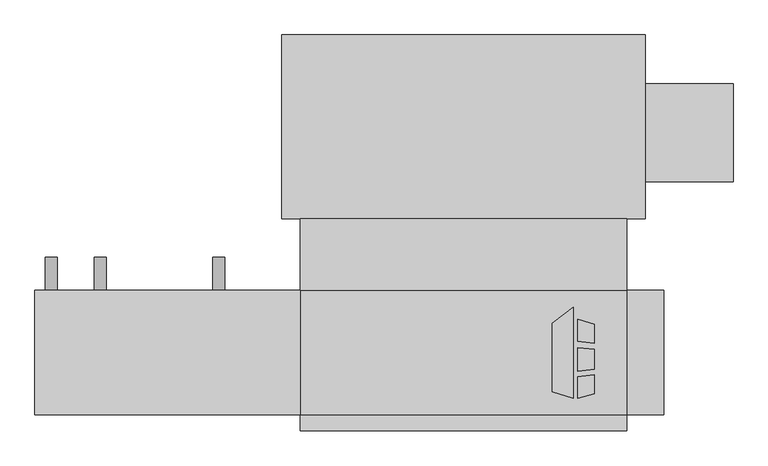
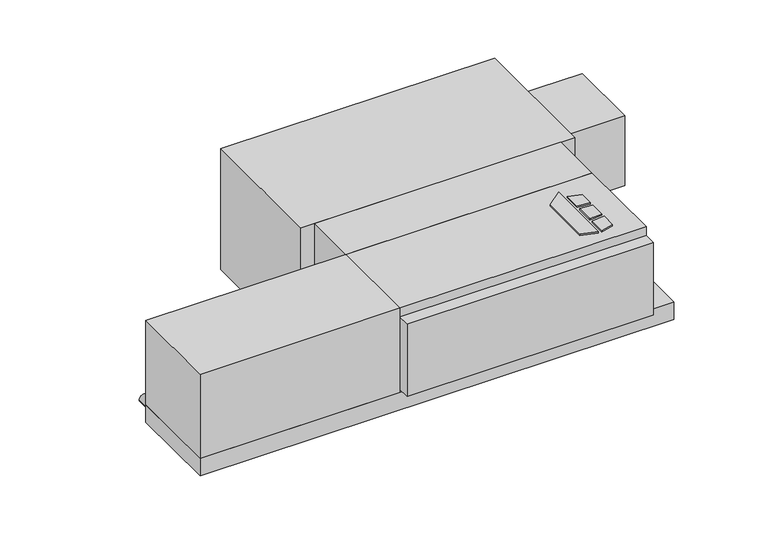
"""IFC4 building model written with IfcOpenShell, lengths in millimetres: proxy geometry, Concealed_Horizontal_Fan_Coil_Unit_With_Plenum_-_CPF_-_IEC_-_2-Pipe_LH : Size 03 - 115v/60Hz/1Ph - 4/1 Coil."""

import ifcopenshell
import ifcopenshell.guid

model = None  # the IFC model being written
_history = None  # IfcOwnerHistory: only IFC2X3 demands one
_inside = {}  # id of a spatial element -> (the spatial element, [elements in it])
_under = {}  # id of a project, library or spatial element -> (it, [spatial elements below it])
_declared = {}  # id of a project -> (the project, [libraries it declares])
_typed = {}  # id of a type object -> (the type object, [elements of that type])
_made_of = {}  # id of a material, layer set ... -> (it, [elements and type objects made of it])


def new_model(schema):
    """Start an empty IFC model of exactly this schema.

    Asked for "IFC4X3", IfcOpenShell would pick the latest addendum, in which some entities
    have other attributes; the version numbers below select the first issue.
    IFC2X3 requires an IfcOwnerHistory on every rooted entity: one is made here for all.
    """
    global model, _history
    if schema == "IFC4X3":
        model = ifcopenshell.file(schema_version=(4, 3, 0, 0))
    else:
        model = ifcopenshell.file(schema=schema)
    _inside.clear()
    _under.clear()
    _declared.clear()
    _typed.clear()
    _made_of.clear()
    _history = None
    if model.schema == "IFC2X3":
        org = make("IfcOrganization", Name="unknown")
        user = make(
            "IfcPersonAndOrganization",
            ThePerson=make("IfcPerson", FamilyName="unknown"),
            TheOrganization=org,
        )
        app = make(
            "IfcApplication",
            ApplicationDeveloper=org,
            Version="unknown",
            ApplicationFullName="unknown",
            ApplicationIdentifier="unknown",
        )
        _history = make(
            "IfcOwnerHistory",
            OwningUser=user,
            OwningApplication=app,
            ChangeAction="ADDED",
            CreationDate=0,
        )
    return model


def make(cls, **values):
    """One entity of the class cls with the attributes given. An attribute that is None is left unset."""
    return model.create_entity(
        cls, **{name: value for name, value in values.items() if value is not None}
    )


def rooted(cls, **values):
    """An entity with a GlobalId (a new one), such as an element, a storey or a relation."""
    return make(cls, GlobalId=ifcopenshell.guid.new(), OwnerHistory=_history, **values)


def si_unit(unit_type, name, prefix=None):
    """IfcSIUnit, for example si_unit("LENGTHUNIT", "METRE", prefix="MILLI")."""
    return make("IfcSIUnit", UnitType=unit_type, Prefix=prefix, Name=name)


def assignment(units):
    """IfcUnitAssignment: the units of a project."""
    return None if units is None else make("IfcUnitAssignment", Units=units)


def point(xyz):
    """IfcCartesianPoint."""
    return None if xyz is None else make("IfcCartesianPoint", Coordinates=xyz)


def direction(xyz):
    """IfcDirection."""
    return None if xyz is None else make("IfcDirection", DirectionRatios=xyz)


def frame(location, z_axis=None, x_axis=None):
    """IfcAxis2Placement3D, a coordinate frame: its origin and axes. An axis left out is left unset."""
    return make(
        "IfcAxis2Placement3D",
        Location=point(location),
        Axis=direction(z_axis),
        RefDirection=direction(x_axis),
    )


def frame_2d(location, x_axis=None):
    """IfcAxis2Placement2D, a coordinate frame in the plane: its origin and x axis."""
    return make(
        "IfcAxis2Placement2D", Location=point(location), RefDirection=direction(x_axis)
    )


def origin():
    """The frame at (0, 0, 0) with its axes left unset."""
    return frame((0.0, 0.0, 0.0))


def origin_with_axes():
    """The frame at (0, 0, 0) with the z axis (0, 0, 1) and the x axis (1, 0, 0) written out."""
    return frame((0.0, 0.0, 0.0), z_axis=(0.0, 0.0, 1.0), x_axis=(1.0, 0.0, 0.0))


def place(relative_to, where):
    """IfcLocalPlacement: puts the frame where relative to a parent placement (None: the world)."""
    return make(
        "IfcLocalPlacement", PlacementRelTo=relative_to, RelativePlacement=where
    )


def context(
    kind, dimensions, precision=None, world=None, true_north=None, identifier=None
):
    """IfcGeometricRepresentationContext, for example the 3D "Model" context."""
    return make(
        "IfcGeometricRepresentationContext",
        ContextIdentifier=identifier,
        ContextType=kind,
        CoordinateSpaceDimension=dimensions,
        Precision=precision,
        WorldCoordinateSystem=world,
        TrueNorth=true_north,
    )


def project(units=None, contexts=None):
    """IfcProject with its units and contexts."""
    return rooted(
        "IfcProject",
        Name="project",
        RepresentationContexts=contexts,
        UnitsInContext=assignment(units),
    )


def spatial(cls, under=None, at=None, **own):
    """A site, building, storey or space (cls), placed at a placement, below another one or the project."""
    s = rooted(cls, ObjectPlacement=at, **own)
    if under is not None:
        _under.setdefault(under.id(), (under, []))[1].append(s)
    return s


def polyline(points):
    """IfcPolyline through the points."""
    return make("IfcPolyline", Points=[point(p) for p in points])


def circle_curve(where, radius):
    """IfcCircle in the frame where."""
    return make("IfcCircle", Position=where, Radius=radius)


def trimmed(basis, trim1, trim2, sense, master):
    """IfcTrimmedCurve: the piece of a basis curve between two trims."""
    return make(
        "IfcTrimmedCurve",
        BasisCurve=basis,
        Trim1=trim1,
        Trim2=trim2,
        SenseAgreement=sense,
        MasterRepresentation=master,
    )


def segment(curve, same_sense, transition):
    """IfcCompositeCurveSegment."""
    return make(
        "IfcCompositeCurveSegment",
        Transition=transition,
        SameSense=same_sense,
        ParentCurve=curve,
    )


def composite_curve(segments, self_intersect=None):
    """IfcCompositeCurve: segments joined end to end."""
    return make("IfcCompositeCurve", Segments=segments, SelfIntersect=self_intersect)


def outline(outer, holes=None, kind="AREA"):
    """IfcArbitraryClosedProfileDef: a profile drawn as a closed curve; with holes, ...WithVoids."""
    if holes is None:
        return make("IfcArbitraryClosedProfileDef", ProfileType=kind, OuterCurve=outer)
    return make(
        "IfcArbitraryProfileDefWithVoids",
        ProfileType=kind,
        OuterCurve=outer,
        InnerCurves=holes,
    )


def extrude(swept, where, along, depth):
    """IfcExtrudedAreaSolid: the profile swept, set in the frame where, extruded along a direction by depth."""
    return make(
        "IfcExtrudedAreaSolid",
        SweptArea=swept,
        Position=where,
        ExtrudedDirection=direction(along),
        Depth=depth,
    )


def shape(context_of_items, identifier, shape_type, items):
    """IfcShapeRepresentation: the items that make up one representation, for example the "Body"."""
    return make(
        "IfcShapeRepresentation",
        ContextOfItems=context_of_items,
        RepresentationIdentifier=identifier,
        RepresentationType=shape_type,
        Items=items,
    )


def source(mapping_origin, context_of_items, identifier, shape_type, items):
    """IfcRepresentationMap: a shape defined once, which mapped items show again and again."""
    return make(
        "IfcRepresentationMap",
        MappingOrigin=mapping_origin,
        MappedRepresentation=shape(context_of_items, identifier, shape_type, items),
    )


def transform(
    local_origin,
    x_axis=None,
    y_axis=None,
    z_axis=None,
    scale=None,
    scale2=None,
    scale3=None,
    uniform=True,
):
    """IfcCartesianTransformationOperator3D, or its non-uniform kind. x_axis, y_axis, z_axis: its Axis1, 2, 3."""
    if uniform:
        return make(
            "IfcCartesianTransformationOperator3D",
            Axis1=direction(x_axis),
            Axis2=direction(y_axis),
            LocalOrigin=point(local_origin),
            Scale=scale,
            Axis3=direction(z_axis),
        )
    return make(
        "IfcCartesianTransformationOperator3DnonUniform",
        Axis1=direction(x_axis),
        Axis2=direction(y_axis),
        LocalOrigin=point(local_origin),
        Scale=scale,
        Axis3=direction(z_axis),
        Scale2=scale2,
        Scale3=scale3,
    )


def mapped(mapping_source, mapping_target):
    """IfcMappedItem: shows the shape of a source again, moved by a transform."""
    return make(
        "IfcMappedItem", MappingSource=mapping_source, MappingTarget=mapping_target
    )


def made_of(thing, what):
    """Note that an element or type object is made of a material, layer set ...; save() writes the relation."""
    if what is not None:
        _made_of.setdefault(what.id(), (what, []))[1].append(thing)
    return thing


def element(
    cls,
    number,
    at=None,
    inside=None,
    cuts=None,
    type_object=None,
    material=None,
    context=None,
    identifier="Body",
    shape_type=None,
    held_by="IfcProductDefinitionShape",
    body=None,
    shapes=None,
    **own,
):
    """One element of the class cls, such as IfcWall. Its Tag is "e" and its number.

    at: its placement. inside: the storey or other place that contains it. cuts: it is an
    opening in that element (IfcRelVoidsElement). A single representation is given by context,
    identifier, shape_type and body (its items); several are given by shapes. held_by: the class
    of the entity that holds the representations. save() writes the other relations.
    """
    e = rooted(cls, Tag="e%d" % number, ObjectPlacement=at, **own)
    if body is not None:
        shapes = [shape(context, identifier, shape_type, body)]
    if shapes is not None:
        e.Representation = make(held_by, Representations=shapes)
    if inside is not None:
        _inside.setdefault(inside.id(), (inside, []))[1].append(e)
    if cuts is not None:
        rooted(
            "IfcRelVoidsElement", RelatingBuildingElement=cuts, RelatedOpeningElement=e
        )
    if type_object is not None:
        _typed.setdefault(type_object.id(), (type_object, []))[1].append(e)
    return made_of(e, material)


def aggregate(whole, parts):
    """IfcRelAggregates: a whole, such as a stair, and the parts it consists of."""
    return rooted("IfcRelAggregates", RelatingObject=whole, RelatedObjects=parts)


def save(model, path):
    """Write the relations noted so far, then the file.

    IfcRelAggregates (storeys below a building ...), IfcRelContainedInSpatialStructure (elements
    in a storey), IfcRelDefinesByType, IfcRelAssociatesMaterial and IfcRelDeclares: one each for
    every whole, place, type object, material and project.
    """
    for whole, parts in _under.values():
        aggregate(whole, parts)
    for where, things in _inside.values():
        rooted(
            "IfcRelContainedInSpatialStructure",
            RelatedElements=things,
            RelatingStructure=where,
        )
    for kind, things in _typed.values():
        rooted("IfcRelDefinesByType", RelatedObjects=things, RelatingType=kind)
    for what, things in _made_of.values():
        rooted("IfcRelAssociatesMaterial", RelatedObjects=things, RelatingMaterial=what)
    for by, libraries in _declared.values():
        rooted("IfcRelDeclares", RelatingContext=by, RelatedDefinitions=libraries)
    model.write(path)


def mechanical_equipment_d865ccd7(model_context):
    return source(origin(), model_context, "Body", "SweptSolid", [
        extrude(outline(polyline([(290.2019761, -193.0453476), (322.7602728, -167.6080184), (322.7602728, -309.5625), (290.2019761, -299.3429201), (290.2019761, -193.0453476)])), origin_with_axes(), (0.0, 0.0, 1.0), 3.175),
        extrude(outline(polyline([(329.5186058, -220.917352), (329.5186058, -186.4374379), (355.6, -194.6240115), (355.6, -224.1197446), (329.5186058, -220.917352)])), origin_with_axes(), (0.0, 0.0, 1.0), 3.175),
        extrude(outline(polyline([(355.6, -302.5740115), (329.5186058, -309.5625), (329.5186058, -276.3411996), (355.6, -272.7993564), (355.6, -302.5740115)])), origin_with_axes(), (0.0, 0.0, 1.0), 3.175),
        extrude(outline(polyline([(355.6, -233.2013277), (355.6, -264.451483), (329.5186058, -267.192748), (329.5186058, -231.3350378), (355.6, -233.2013277)])), origin_with_axes(), (0.0, 0.0, 1.0), 3.175),
        extrude(outline(polyline([(-101.6, -30.1625), (406.4, -30.1625), (406.4, -141.2875), (-101.6, -141.2875), (-101.6, -30.1625)])), frame((0.0, 0.0, -184.15), z_axis=(0.0, 0.0, 1.0), x_axis=(1.0, 0.0, 0.0)), (0.0, 0.0, 1.0), 184.15),
        extrude(outline(polyline([(-514.35, -334.9625), (-514.35, -141.2875), (-101.6, -141.2875), (-101.6, -334.9625), (-514.35, -334.9625)])), frame((0.0, 0.0, -184.15), z_axis=(0.0, 0.0, 1.0), x_axis=(1.0, 0.0, 0.0)), (0.0, 0.0, 1.0), 184.15),
        extrude(outline(polyline([(463.55, -141.2875), (463.55, -334.9625), (-514.35, -334.9625), (-514.35, -141.2875), (463.55, -141.2875)])), frame((0.0, 0.0, -222.25), z_axis=(0.0, 0.0, 1.0), x_axis=(1.0, 0.0, 0.0)), (0.0, 0.0, 1.0), 38.1),
        extrude(outline(composite_curve([segment(trimmed(circle_curve(frame_2d((-158.75, -412.75)), 9.525), [point((-158.75, -403.225))], [point((-158.75, -422.275))], False, "CARTESIAN"), True, "CONTINUOUS"), segment(trimmed(circle_curve(frame_2d((-158.75, -412.75)), 9.525), [point((-158.75, -422.275))], [point((-158.75, -403.225))], False, "CARTESIAN"), True, "CONTINUOUS")], self_intersect=False)), frame((0.0, -141.2875, 0.0), z_axis=(0.0, 1.0, 0.0), x_axis=(0.0, 0.0, 1.0)), (0.0, 0.0, 1.0), 50.8),
        extrude(outline(composite_curve([segment(trimmed(circle_curve(frame_2d((-158.75, -228.6)), 9.525), [point((-158.75, -219.075))], [point((-158.75, -238.125))], False, "CARTESIAN"), True, "CONTINUOUS"), segment(trimmed(circle_curve(frame_2d((-158.75, -228.6)), 9.525), [point((-158.75, -238.125))], [point((-158.75, -219.075))], False, "CARTESIAN"), True, "CONTINUOUS")], self_intersect=False)), frame((0.0, -141.2875, 0.0), z_axis=(0.0, 1.0, 0.0), x_axis=(0.0, 0.0, 1.0)), (0.0, 0.0, 1.0), 50.8),
        extrude(outline(composite_curve([segment(trimmed(circle_curve(frame_2d((-209.55, -488.95)), 9.525), [point((-209.55, -498.475))], [point((-209.55, -479.425))], False, "CARTESIAN"), True, "CONTINUOUS"), segment(trimmed(circle_curve(frame_2d((-209.55, -488.95)), 9.525), [point((-209.55, -479.425))], [point((-209.55, -498.475))], False, "CARTESIAN"), True, "CONTINUOUS")], self_intersect=False)), frame((0.0, -141.2875, 0.0), z_axis=(0.0, 1.0, 0.0), x_axis=(0.0, 0.0, 1.0)), (0.0, 0.0, 1.0), 50.8),
        extrude(outline(polyline([(406.4, -334.9625), (406.4, -360.3625), (-101.6, -360.3625), (-101.6, -334.9625), (406.4, -334.9625)])), frame((0.0, 0.0, -177.8), z_axis=(0.0, 0.0, 1.0), x_axis=(1.0, 0.0, 0.0)), (0.0, 0.0, 1.0), 158.75),
        extrude(outline(polyline([(406.4, -334.9625), (-101.6, -334.9625), (-101.6, -141.2875), (406.4, -141.2875), (406.4, -334.9625)])), frame((0.0, 0.0, -184.15), z_axis=(0.0, 0.0, 1.0), x_axis=(1.0, 0.0, 0.0)), (0.0, 0.0, 1.0), 184.15),
        extrude(outline(polyline([(434.975, 26.9875), (434.975, 179.3875), (571.5, 179.3875), (571.5, 26.9875), (434.975, 26.9875)])), frame((0.0, 0.0, -187.325), z_axis=(0.0, 0.0, 1.0), x_axis=(1.0, 0.0, 0.0)), (0.0, 0.0, 1.0), 152.4),
        extrude(outline(polyline([(-130.175, 255.5875), (434.975, 255.5875), (434.975, -30.1625), (-130.175, -30.1625), (-130.175, 255.5875)])), frame((0.0, 0.0, -263.525), z_axis=(0.0, 0.0, 1.0), x_axis=(1.0, 0.0, 0.0)), (0.0, 0.0, 1.0), 263.525),
    ])


if __name__ == "__main__":
    model = new_model("IFC4")
    model_context = context("Model", 3, world=origin())
    ifc_project = project(units=[si_unit("LENGTHUNIT", "METRE", prefix="MILLI")], contexts=[model_context])
    site = spatial("IfcSite", under=ifc_project)
    building = spatial("IfcBuilding", under=site)
    placement = place(None, origin())
    mechanical_equipment_shape = mechanical_equipment_d865ccd7(model_context)
    element("IfcBuildingElementProxy", 1, Name="Concealed_Horizontal_Fan_Coil_Unit_With_Plenum_-_CPF_-_IEC_-_2-Pipe_LH : Size 03 - 115v/60Hz/1Ph - 4/1 Coil", ObjectType="Concealed_Horizontal_Fan_Coil_Unit_With_Plenum_-_CPF_-_IEC_-_2-Pipe_LH : Size 03 - 115v/60Hz/1Ph - 4/1 Coil", at=placement, inside=building, context=model_context, shape_type="MappedRepresentation", body=[
        mapped(mechanical_equipment_shape, transform((0.0, 0.0, 0.0), x_axis=(1.0, 0.0, 0.0), y_axis=(0.0, 1.0, 0.0), z_axis=(0.0, 0.0, 1.0))),
    ])
    save(model, "model.ifc")
